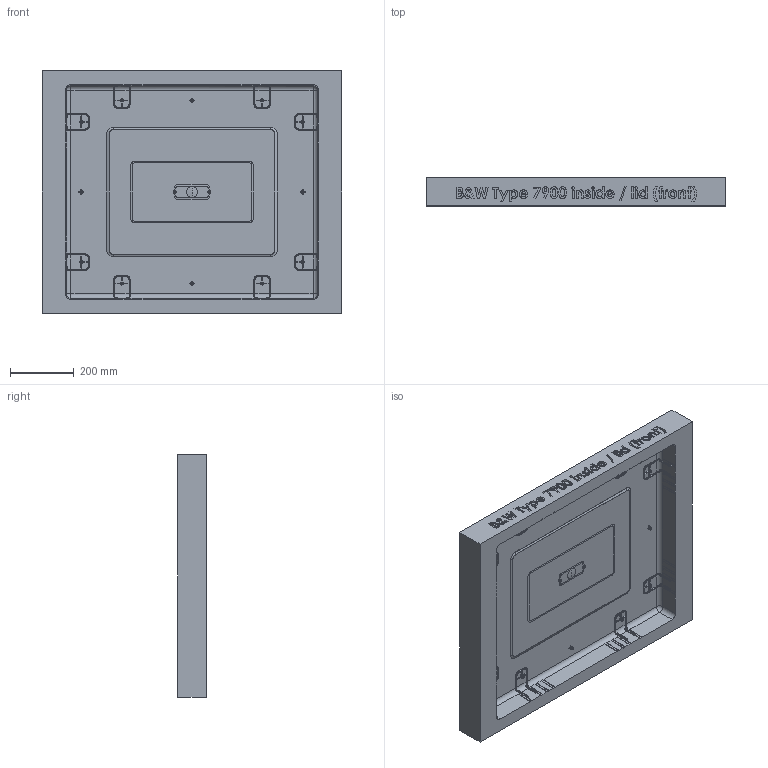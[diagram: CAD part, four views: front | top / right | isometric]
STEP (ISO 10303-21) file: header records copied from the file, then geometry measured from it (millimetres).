
FILE_DESCRIPTION (( 'STEP AP203' ), '1' );
FILE_NAME ('Type 7900 - innside drawing - lid.STEP', '2025-12-22T12:18:36', ( '' ), ( '' ), 'SwSTEP 2.0', 'SolidWorks 2025', '' );
FILE_SCHEMA (( 'CONFIG_CONTROL_DESIGN' ));
Products named in the file (1): Type 7900 - innside drawing - lid
Bounding box: 940 x 89 x 760 mm (x, y, z)
Volume: 28398834.9 mm3; surface area: 1943603 mm2
Topology: 1 solids, 1 shells, 2669 faces, 6468 edges, 3639 vertices
Faces by surface type: bspline 943, cylinder 608, plane 580, torus 260, sphere 150, cone 128
Entity records: 97447 total; most frequent: CARTESIAN_POINT 44186, ORIENTED_EDGE 12480, DIRECTION 9658, EDGE_CURVE 6240, AXIS2_PLACEMENT_3D 3761, VERTEX_POINT 3639, EDGE_LOOP 2735, ADVANCED_FACE 2669
